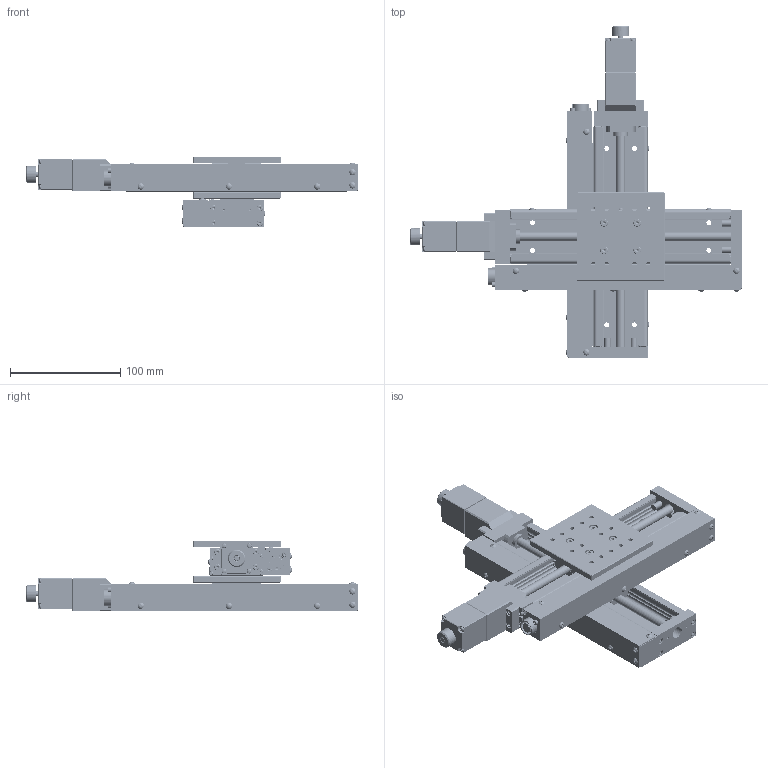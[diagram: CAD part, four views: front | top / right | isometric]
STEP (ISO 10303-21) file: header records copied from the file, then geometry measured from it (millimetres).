
FILE_DESCRIPTION( (''), '2;1');
FILE_NAME ('PM80B-100XY-HQ.stp','2021-02-26T14:20:36',(''),(''),'spGate 15.6.6','','');
FILE_SCHEMA (('AUTOMOTIVE_DESIGN'));
Length unit declared in the file: millimetre
Products named in the file (135): Assembly; PM80B-100XY-HQ-prt0; PM80B-100XY-HQ-prt1; PM80B-100XY-HQ-prt2; PM80B-100XY-HQ-prt3; PM80B-100XY-HQ-prt4; PM80B-100XY-HQ-prt5; PM80B-100XY-HQ-prt6; PM80B-100XY-HQ-prt7; PM80B-100XY-HQ-prt8; PM80B-100XY-HQ-prt9; PM80B-100XY-HQ-prt10; PM80B-100XY-HQ-prt11; PM80B-100XY-HQ-prt12; PM80B-100XY-HQ-prt13; PM80B-100XY-HQ-prt14; PM80B-100XY-HQ-prt15; PM80B-100XY-HQ-prt16; PM80B-100XY-HQ-prt17; PM80B-100XY-HQ-prt18; PM80B-100XY-HQ-prt19; PM80B-100XY-HQ-prt20; PM80B-100XY-HQ-prt21; PM80B-100XY-HQ-prt22; PM80B-100XY-HQ-prt23; PM80B-100XY-HQ-prt24; PM80B-100XY-HQ-prt25; PM80B-100XY-HQ-prt26; PM80B-100XY-HQ-prt27; PM80B-100XY-HQ-prt28; PM80B-100XY-HQ-prt29; PM80B-100XY-HQ-prt30; PM80B-100XY-HQ-prt31; PM80B-100XY-HQ-prt32; PM80B-100XY-HQ-prt33; PM80B-100XY-HQ-prt34; PM80B-100XY-HQ-prt35; PM80B-100XY-HQ-prt36; PM80B-100XY-HQ-prt37; PM80B-100XY-HQ-prt38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
Assembly tree (134 placements, depth 2):
  Assembly
    PM80B-100XY-HQ-prt0
    PM80B-100XY-HQ-prt1
    PM80B-100XY-HQ-prt2
    PM80B-100XY-HQ-prt3
    PM80B-100XY-HQ-prt4
    PM80B-100XY-HQ-prt5
    PM80B-100XY-HQ-prt6
    PM80B-100XY-HQ-prt7
    PM80B-100XY-HQ-prt8
    PM80B-100XY-HQ-prt9
    PM80B-100XY-HQ-prt10
    PM80B-100XY-HQ-prt11
    PM80B-100XY-HQ-prt12
    PM80B-100XY-HQ-prt13
    PM80B-100XY-HQ-prt14
    PM80B-100XY-HQ-prt15
    PM80B-100XY-HQ-prt16
    PM80B-100XY-HQ-prt17
    PM80B-100XY-HQ-prt18
    PM80B-100XY-HQ-prt19
    PM80B-100XY-HQ-prt20
    PM80B-100XY-HQ-prt21
    PM80B-100XY-HQ-prt22
    PM80B-100XY-HQ-prt23
    PM80B-100XY-HQ-prt24
    PM80B-100XY-HQ-prt25
    PM80B-100XY-HQ-prt26
    PM80B-100XY-HQ-prt27
    PM80B-100XY-HQ-prt28
    PM80B-100XY-HQ-prt29
    PM80B-100XY-HQ-prt30
    PM80B-100XY-HQ-prt31
    PM80B-100XY-HQ-prt32
    PM80B-100XY-HQ-prt33
    PM80B-100XY-HQ-prt34
    PM80B-100XY-HQ-prt35
    PM80B-100XY-HQ-prt36
    PM80B-100XY-HQ-prt37
    PM80B-100XY-HQ-prt38
    PM80B-100XY-HQ-prt39
    PM80B-100XY-HQ-prt40
    PM80B-100XY-HQ-prt41
    PM80B-100XY-HQ-prt42
    PM80B-100XY-HQ-prt43
    PM80B-100XY-HQ-prt44
    PM80B-100XY-HQ-prt45
    PM80B-100XY-HQ-prt46
    PM80B-100XY-HQ-prt47
    PM80B-100XY-HQ-prt48
    PM80B-100XY-HQ-prt49
    PM80B-100XY-HQ-prt50
    PM80B-100XY-HQ-prt51
    PM80B-100XY-HQ-prt52
    PM80B-100XY-HQ-prt53
    PM80B-100XY-HQ-prt54
    PM80B-100XY-HQ-prt55
    PM80B-100XY-HQ-prt56
    PM80B-100XY-HQ-prt57
    PM80B-100XY-HQ-prt58
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Bounding box: 301 x 301 x 64 mm (x, y, z)
Volume: 580195.7 mm3; surface area: 350429.1 mm2
Topology: 134 solids, 134 shells, 5450 faces, 12969 edges, 7929 vertices
Faces by surface type: plane 2766, cylinder 1714, bspline 910, sphere 60
Entity records: 277321 total; most frequent: CARTESIAN_POINT 42518, DIRECTION 26940, ORIENTED_EDGE 25246, COLOUR_RGB 18201, PRESENTATION_STYLE_ASSIGNMENT 18201, STYLED_ITEM 18201, EDGE_CURVE 12623, DRAUGHTING_PRE_DEFINED_CURVE_FONT 12623
